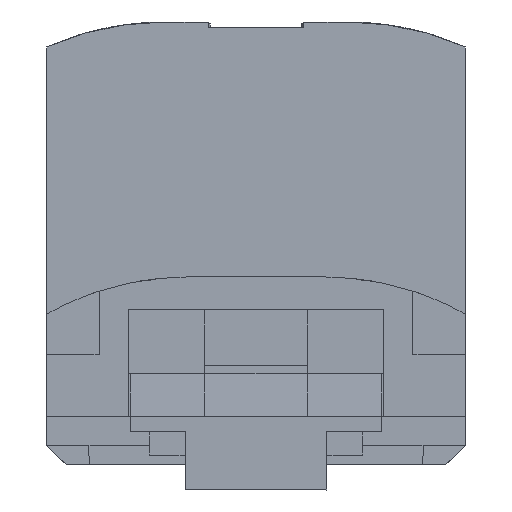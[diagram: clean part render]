
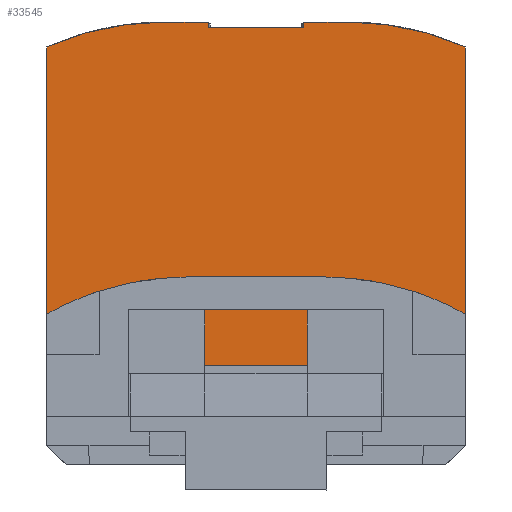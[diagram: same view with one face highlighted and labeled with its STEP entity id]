
A CAD part, front view. The second image highlights one B-rep face of the part: STEP entity #33545.
In plain terms, the highlighted planar face has unit normal (0, -1, 0) as drawn and (1, 0, 0) by its records, which use the part's own axes.
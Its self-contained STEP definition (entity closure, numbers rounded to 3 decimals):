
#862=CIRCLE('',#34871,15.);
#863=CIRCLE('',#34888,15.);
#4085=ORIENTED_EDGE('',*,*,#9307,.T.);
#4086=ORIENTED_EDGE('',*,*,#9290,.F.);
#4087=ORIENTED_EDGE('',*,*,#9304,.T.);
#4088=ORIENTED_EDGE('',*,*,#9295,.F.);
#4089=ORIENTED_EDGE('',*,*,#10105,.T.);
#4090=ORIENTED_EDGE('',*,*,#9301,.T.);
#4091=ORIENTED_EDGE('',*,*,#9322,.T.);
#4092=ORIENTED_EDGE('',*,*,#9324,.F.);
#4093=ORIENTED_EDGE('',*,*,#10108,.F.);
#4094=ORIENTED_EDGE('',*,*,#9417,.T.);
#4095=ORIENTED_EDGE('',*,*,#10224,.F.);
#4096=ORIENTED_EDGE('',*,*,#10176,.T.);
#4097=ORIENTED_EDGE('',*,*,#10225,.T.);
#4098=ORIENTED_EDGE('',*,*,#9170,.F.);
#4099=ORIENTED_EDGE('',*,*,#10090,.F.);
#4100=ORIENTED_EDGE('',*,*,#9259,.T.);
#4101=ORIENTED_EDGE('',*,*,#9280,.F.);
#4102=ORIENTED_EDGE('',*,*,#9278,.F.);
#4103=ORIENTED_EDGE('',*,*,#10095,.T.);
#4104=ORIENTED_EDGE('',*,*,#10096,.T.);
#4105=ORIENTED_EDGE('',*,*,#9263,.F.);
#4106=ORIENTED_EDGE('',*,*,#10098,.T.);
#9170=EDGE_CURVE('',#12778,#12779,#15465,.T.);
#9259=EDGE_CURVE('',#12852,#12850,#15546,.T.);
#9263=EDGE_CURVE('',#12854,#12856,#15550,.T.);
#9278=EDGE_CURVE('',#12870,#12871,#15562,.T.);
#9280=EDGE_CURVE('',#12871,#12850,#15564,.T.);
#9290=EDGE_CURVE('',#12878,#12880,#15573,.T.);
#9295=EDGE_CURVE('',#12884,#12885,#15578,.T.);
#9301=EDGE_CURVE('',#12890,#12888,#15581,.T.);
#9304=EDGE_CURVE('',#12878,#12885,#15584,.T.);
#9307=EDGE_CURVE('',#12893,#12880,#15587,.T.);
#9322=EDGE_CURVE('',#12888,#12901,#15600,.T.);
#9324=EDGE_CURVE('',#12902,#12901,#15602,.T.);
#9417=EDGE_CURVE('',#12975,#12974,#15671,.T.);
#10090=EDGE_CURVE('',#12852,#12778,#862,.T.);
#10095=EDGE_CURVE('',#12870,#13420,#16137,.T.);
#10096=EDGE_CURVE('',#13420,#12856,#16138,.T.);
#10098=EDGE_CURVE('',#12854,#12893,#16140,.T.);
#10105=EDGE_CURVE('',#12884,#12890,#16144,.T.);
#10108=EDGE_CURVE('',#12975,#12902,#863,.T.);
#10176=EDGE_CURVE('',#13473,#13472,#16197,.T.);
#10224=EDGE_CURVE('',#13473,#12974,#16237,.T.);
#10225=EDGE_CURVE('',#13472,#12779,#16238,.T.);
#12778=VERTEX_POINT('',#43095);
#12779=VERTEX_POINT('',#43097);
#12850=VERTEX_POINT('',#43275);
#12852=VERTEX_POINT('',#43278);
#12854=VERTEX_POINT('',#43284);
#12856=VERTEX_POINT('',#43287);
#12870=VERTEX_POINT('',#43513);
#12871=VERTEX_POINT('',#43515);
#12878=VERTEX_POINT('',#43683);
#12880=VERTEX_POINT('',#43686);
#12884=VERTEX_POINT('',#43695);
#12885=VERTEX_POINT('',#43697);
#12888=VERTEX_POINT('',#43707);
#12890=VERTEX_POINT('',#43710);
#12893=VERTEX_POINT('',#43721);
#12901=VERTEX_POINT('',#43745);
#12902=VERTEX_POINT('',#43749);
#12974=VERTEX_POINT('',#45423);
#12975=VERTEX_POINT('',#45425);
#13420=VERTEX_POINT('',#54581);
#13472=VERTEX_POINT('',#55291);
#13473=VERTEX_POINT('',#55293);
#15465=LINE('',#43096,#18347);
#15546=LINE('',#43277,#18428);
#15550=LINE('',#43286,#18432);
#15562=LINE('',#43514,#18444);
#15564=LINE('',#43518,#18446);
#15573=LINE('',#43685,#18455);
#15578=LINE('',#43696,#18460);
#15581=LINE('',#43709,#18463);
#15584=LINE('',#43715,#18466);
#15587=LINE('',#43720,#18469);
#15600=LINE('',#43746,#18482);
#15602=LINE('',#43750,#18484);
#15671=LINE('',#45424,#18553);
#16137=LINE('',#54582,#19019);
#16138=LINE('',#54584,#19020);
#16140=LINE('',#54588,#19022);
#16144=LINE('',#54714,#19026);
#16197=LINE('',#55292,#19079);
#16237=LINE('',#55386,#19119);
#16238=LINE('',#55387,#19120);
#18347=VECTOR('',#36794,1000.);
#18428=VECTOR('',#36929,1000.);
#18432=VECTOR('',#36935,1000.);
#18444=VECTOR('',#36955,1000.);
#18446=VECTOR('',#36959,1000.);
#18455=VECTOR('',#36972,1000.);
#18460=VECTOR('',#36979,1000.);
#18463=VECTOR('',#36992,1000.);
#18466=VECTOR('',#36997,1000.);
#18469=VECTOR('',#37002,1000.);
#18482=VECTOR('',#37023,1000.);
#18484=VECTOR('',#37027,1000.);
#18553=VECTOR('',#37156,1000.);
#19019=VECTOR('',#38222,1000.);
#19020=VECTOR('',#38225,1000.);
#19022=VECTOR('',#38231,1000.);
#19026=VECTOR('',#38245,1000.);
#19079=VECTOR('',#38364,1000.);
#19119=VECTOR('',#38458,1000.);
#19120=VECTOR('',#38459,1000.);
#21242=EDGE_LOOP('',(#4085,#4086,#4087,#4088,#4089,#4090,#4091,#4092,#4093,
#4094,#4095,#4096,#4097,#4098,#4099,#4100,#4101,#4102,#4103,#4104,#4105,
#4106));
#22494=FACE_BOUND('',#21242,.T.);
#23684=PLANE('',#34943);
#33545=ADVANCED_FACE('',(#22494),#23684,.F.);
#34871=AXIS2_PLACEMENT_3D('',#54571,#38208,#38209);
#34888=AXIS2_PLACEMENT_3D('',#54721,#38256,#38257);
#34943=AXIS2_PLACEMENT_3D('',#55385,#38456,#38457);
#36794=DIRECTION('',(0.,1.,0.));
#36929=DIRECTION('',(0.,0.,-1.));
#36935=DIRECTION('',(0.,1.,0.));
#36955=DIRECTION('',(0.,0.,-1.));
#36959=DIRECTION('',(0.,-1.,0.));
#36972=DIRECTION('',(0.,0.,-1.));
#36979=DIRECTION('',(0.,0.,-1.));
#36992=DIRECTION('',(0.,0.,-1.));
#36997=DIRECTION('',(0.,-1.,0.));
#37002=DIRECTION('',(0.,1.,0.));
#37023=DIRECTION('',(0.,1.,0.));
#37027=DIRECTION('',(0.,0.,-1.));
#37156=DIRECTION('',(0.,-1.,0.));
#38208=DIRECTION('',(-1.,0.,0.));
#38209=DIRECTION('',(0.,0.974,-0.225));
#38222=DIRECTION('',(0.,1.,0.));
#38225=DIRECTION('',(0.,0.,-1.));
#38231=DIRECTION('',(0.,0.,-1.));
#38245=DIRECTION('',(0.,1.,0.));
#38256=DIRECTION('',(-1.,0.,0.));
#38257=DIRECTION('',(0.,-0.974,0.225));
#38364=DIRECTION('',(0.,-1.,0.));
#38456=DIRECTION('',(-1.,0.,0.));
#38457=DIRECTION('',(0.,-1.,0.));
#38458=DIRECTION('',(0.,0.,1.));
#38459=DIRECTION('',(0.,0.,1.));
#43095=CARTESIAN_POINT('',(24.9,6.086,17.7));
#43096=CARTESIAN_POINT('',(24.9,40.113,17.7));
#43097=CARTESIAN_POINT('',(24.9,8.346,17.7));
#43275=CARTESIAN_POINT('',(24.9,0.,0.55));
#43277=CARTESIAN_POINT('',(24.9,0.,8.833));
#43278=CARTESIAN_POINT('',(24.9,0.,16.41));
#43284=CARTESIAN_POINT('',(24.9,2.1,1.));
#43286=CARTESIAN_POINT('',(24.9,2.3,1.));
#43287=CARTESIAN_POINT('',(24.9,3.4,1.));
#43513=CARTESIAN_POINT('',(24.9,0.8,2.1));
#43514=CARTESIAN_POINT('',(24.9,0.8,8.833));
#43515=CARTESIAN_POINT('',(24.9,0.8,0.55));
#43518=CARTESIAN_POINT('',(24.9,13.094,0.55));
#43683=CARTESIAN_POINT('',(24.9,19.5,1.));
#43685=CARTESIAN_POINT('',(24.9,19.5,8.833));
#43686=CARTESIAN_POINT('',(24.9,19.5,0.));
#43695=CARTESIAN_POINT('',(24.9,18.2,2.1));
#43696=CARTESIAN_POINT('',(24.9,18.2,8.833));
#43697=CARTESIAN_POINT('',(24.9,18.2,1.));
#43707=CARTESIAN_POINT('',(24.9,20.8,0.55));
#43709=CARTESIAN_POINT('',(24.9,20.8,8.833));
#43710=CARTESIAN_POINT('',(24.9,20.8,2.1));
#43715=CARTESIAN_POINT('',(24.9,13.094,1.));
#43720=CARTESIAN_POINT('',(24.9,13.094,0.));
#43721=CARTESIAN_POINT('',(24.9,2.1,0.));
#43745=CARTESIAN_POINT('',(24.9,21.6,0.55));
#43746=CARTESIAN_POINT('',(24.9,13.094,0.55));
#43749=CARTESIAN_POINT('',(24.9,21.6,16.41));
#43750=CARTESIAN_POINT('',(24.9,21.6,8.833));
#45423=CARTESIAN_POINT('',(24.9,13.254,17.7));
#45424=CARTESIAN_POINT('',(24.9,40.113,17.7));
#45425=CARTESIAN_POINT('',(24.9,15.514,17.7));
#54571=CARTESIAN_POINT('',(24.9,6.086,2.7));
#54581=CARTESIAN_POINT('',(24.9,3.4,2.1));
#54582=CARTESIAN_POINT('',(24.9,119.192,2.1));
#54584=CARTESIAN_POINT('',(24.9,3.4,-12.026));
#54588=CARTESIAN_POINT('',(24.9,2.1,8.833));
#54714=CARTESIAN_POINT('',(24.9,19.454,2.1));
#54721=CARTESIAN_POINT('',(24.9,15.514,2.7));
#55291=CARTESIAN_POINT('',(24.9,8.346,17.4));
#55292=CARTESIAN_POINT('',(24.9,40.078,17.4));
#55293=CARTESIAN_POINT('',(24.9,13.254,17.4));
#55385=CARTESIAN_POINT('',(24.9,13.094,8.833));
#55386=CARTESIAN_POINT('',(24.9,13.254,2.982));
#55387=CARTESIAN_POINT('',(24.9,8.346,17.55));
